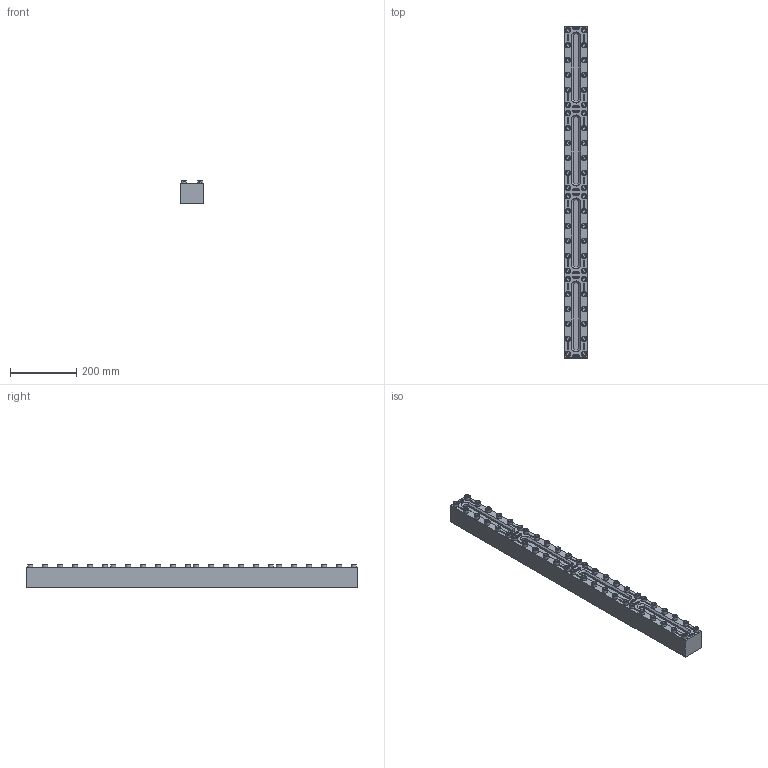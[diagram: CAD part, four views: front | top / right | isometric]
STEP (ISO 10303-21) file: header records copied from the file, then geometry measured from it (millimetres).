
FILE_DESCRIPTION(/* description */ (''),/* implementation_level */ '2;1');
FILE_NAME(/* name */ 'W:\Konstruktion_ACI\330\_Zeichnungen\STEP\ACI-330-1000-40.stp',/* time_stamp */ '2022-03-01T17:32:46+01:00',/* author */ ('koslowksi'),/* organization */ (''),/* preprocessor_version */ 'ST-DEVELOPER v16.1',/* originating_system */ 'Autodesk Inventor 2016',/* authorisation */ '');
FILE_SCHEMA (('AUTOMOTIVE_DESIGN { 1 0 10303 214 3 1 1 }'));
Products named in the file (1): ACI-330-1000-40.stp
Bounding box: 70 x 1000 x 70.9 mm (x, y, z)
Volume: 3880250.5 mm3; surface area: 349331.9 mm2
Topology: 1 solids, 1 shells, 4926 faces, 13316 edges, 8856 vertices
Faces by surface type: plane 3550, bspline 1208, cylinder 64, cone 56, torus 48
Full cylindrical faces by diameter (mm): 16 x48
Entity records: 161784 total; most frequent: CARTESIAN_POINT 43043, ORIENTED_EDGE 26152, DIRECTION 17994, EDGE_CURVE 13076, LINE 10188, VECTOR 10188, VERTEX_POINT 8760, EDGE_LOOP 5534
